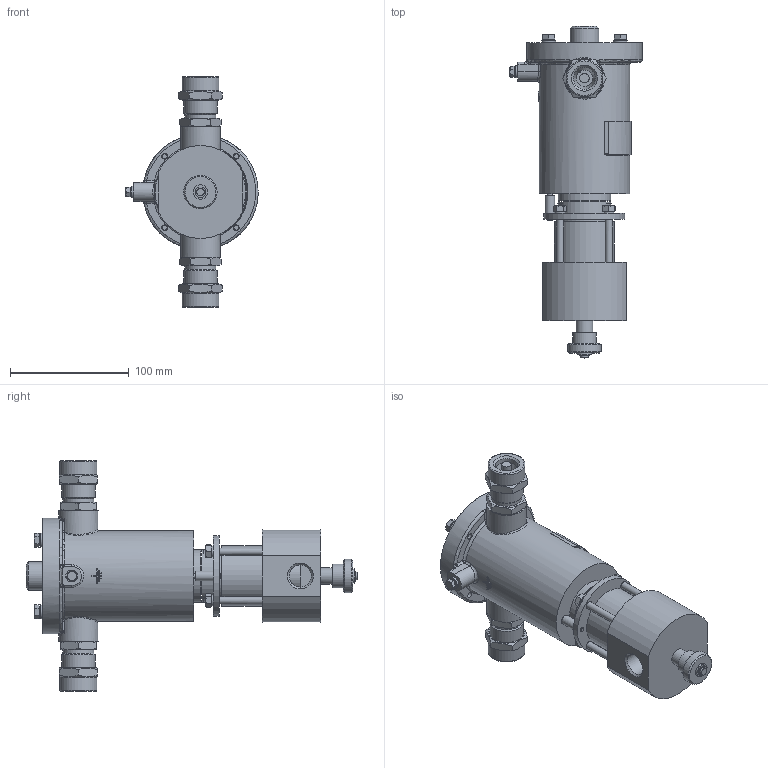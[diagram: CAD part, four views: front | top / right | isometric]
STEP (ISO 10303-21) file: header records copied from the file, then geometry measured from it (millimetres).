
FILE_DESCRIPTION(('STEP AP203'), '1');
FILE_NAME('捇迕-玿 DN15PN25-捔-G1_2-0.stp', '2019-03-27T10:37:01', ('u'), ($), 'ASCON STEP Converter 1.3', 'Kompas 3D', '');
FILE_SCHEMA(('CONFIG_CONTROL_DESIGN','SUPPORT_RESOURCE_SCHEMA'));
Length unit declared in the file: millimetre
Products named in the file (1): 1
Bounding box: 111.2 x 279 x 194 mm (x, y, z)
Volume: 654377.2 mm3; surface area: 191507.4 mm2
Topology: 3 solids, 22 shells, 1880 faces, 4969 edges, 3245 vertices
Faces by surface type: cylinder 971, plane 707, cone 139, bspline 29, torus 18, extrusion 16
Full cylindrical faces by diameter (mm): 2.459 x4, 4 x8, 4.134 x1, 4.5 x2, 4.917 x8, 5 x2, 6 x16, 6.1 x1, 6.3 x2, 6.4 x1, 6.5 x11, 8 x7, 9 x1, 10 x3, 12 x5, 12.376 x1, 13 x2, 14 x1, 15 x2, 18.631 x2, 18.632 x2, 20 x3, 20.5 x1, 22 x2, 22.376 x2, 22.5 x1, 23.5 x3, 24 x3, 24.5 x3, 25 x2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
Entity records: 71124 total; most frequent: CARTESIAN_POINT 23157, DIRECTION 10450, ORIENTED_EDGE 9914, EDGE_CURVE 4957, AXIS2_PLACEMENT_3D 4016, VERTEX_POINT 3245, VECTOR 2418, LINE 2402
